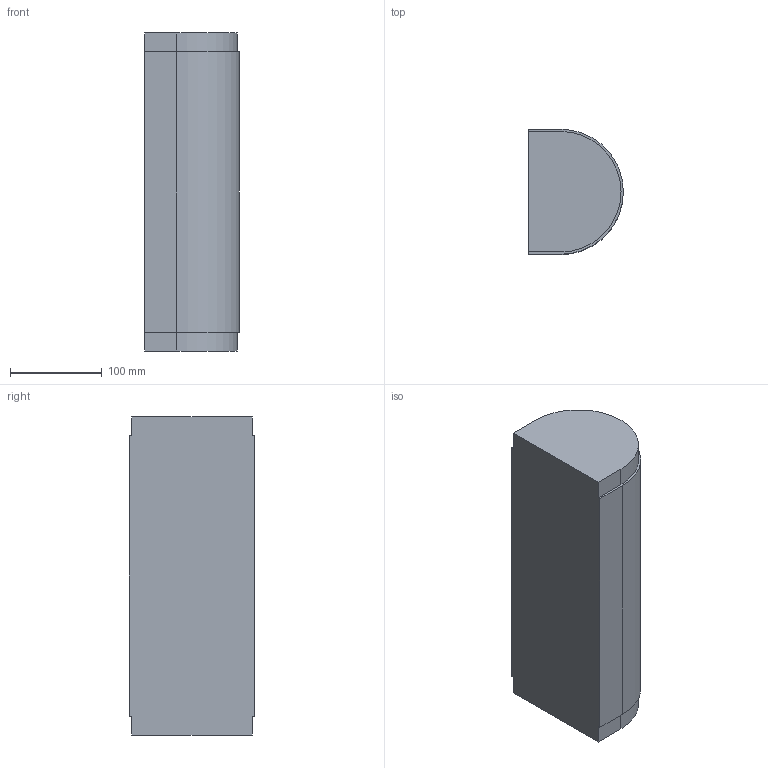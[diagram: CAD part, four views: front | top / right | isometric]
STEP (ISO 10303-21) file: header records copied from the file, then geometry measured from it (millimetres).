
FILE_DESCRIPTION (( 'STEP AP214' ), '1' );
FILE_NAME ('02.150I01.350.N Omloop.STEP', '2013-03-21T10:42:07', ( 'Gebruiker' ), ( '' ), 'SwSTEP 2.0', 'SolidWorks 2012', '' );
FILE_SCHEMA (( 'AUTOMOTIVE_DESIGN' ));
Length unit declared in the file: millimetre
Products named in the file (1): 02.150I01.350.N Omloop
Bounding box: 103 x 136 x 346 mm (x, y, z)
Volume: 4131274.1 mm3; surface area: 168708.5 mm2
Topology: 1 solids, 1 shells, 14 faces, 36 edges, 24 vertices
Faces by surface type: plane 11, cylinder 3
Entity records: 460 total; most frequent: CARTESIAN_POINT 75, DIRECTION 72, ORIENTED_EDGE 72, EDGE_CURVE 36, VECTOR 30, LINE 30, VERTEX_POINT 24, AXIS2_PLACEMENT_3D 21
